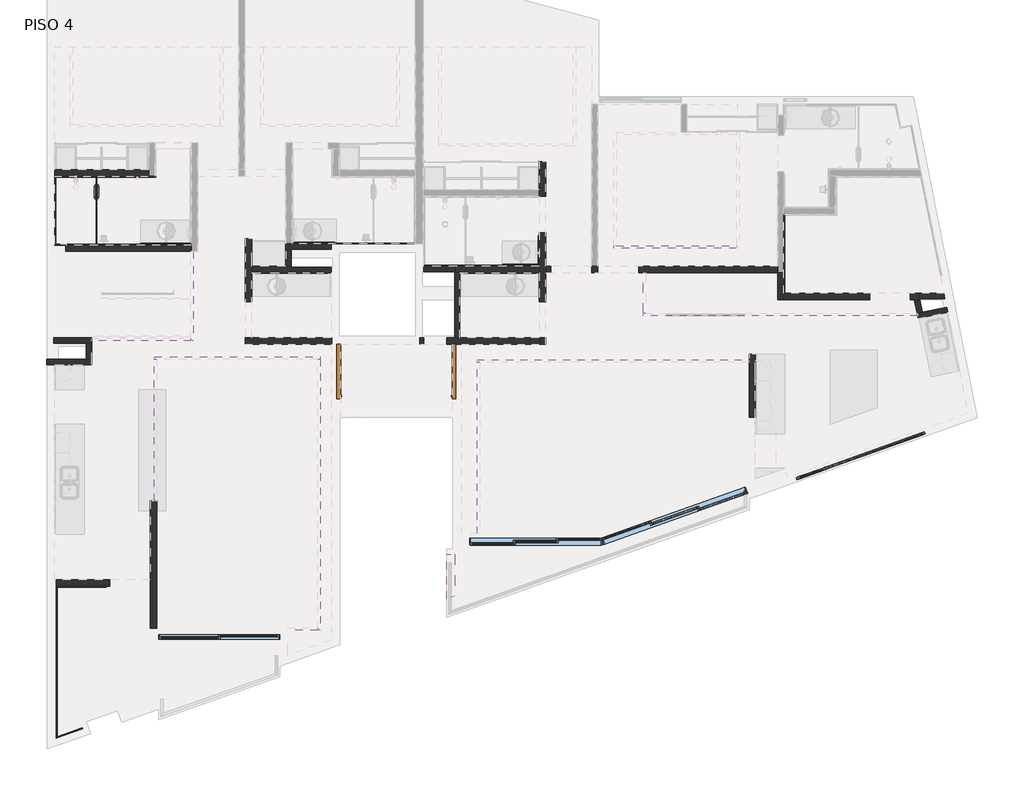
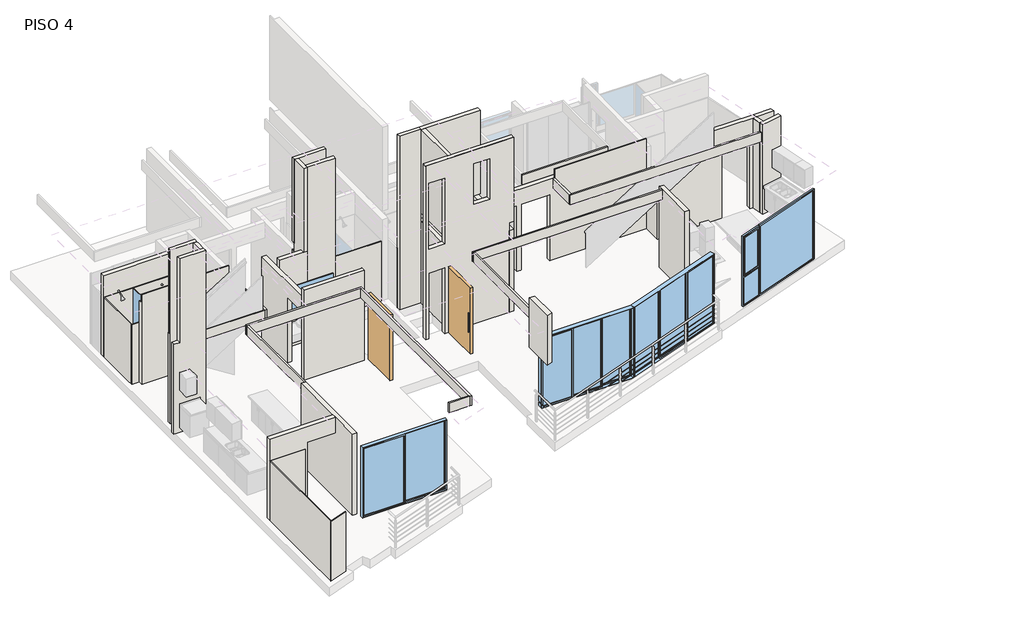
# One storey, part 1 of 3: 47 walls, 10 windows, 2 doors.
"""IFC4 building model written with IfcOpenShell, lengths in millimetres."""

from ifc_helpers import new_model, si_unit, frame, origin, place, context, project, spatial, polyline, outline, extrude, faceted_brep, transform, mapped, element, save
from components import door_120_x_220_cm_1a80d65d, door_120_x_220_cm_c73bc2d5, window_554a51fe, window_76b8c877, window_1067b7f7, window_0b8e7a57, window_f6d1640f, window_47e7c2ce, window_0ac24249, window_334a38c3, window_84fe70d5, window_9f760435

model = new_model("IFC4")

# Units and contexts
model_context = context("Model", 3, world=origin())
ifc_project = project(units=[si_unit("LENGTHUNIT", "METRE", prefix="MILLI")], contexts=[model_context])

# Site, building, storey
site = spatial("IfcSite", under=ifc_project)
building = spatial("IfcBuilding", under=site)
storey = spatial("IfcBuildingStorey", under=building, Name="PISO 4", Elevation=12000.0)

# Doors
placement = place(None, origin())
door_120_x_220_cm_shape = door_120_x_220_cm_1a80d65d(model_context)
element("IfcDoor", 1, ObjectType="PUERTA ACCESO_PIVOT : 120 x 220 cm", at=placement, inside=storey, context=model_context, shape_type="MappedRepresentation", body=[
    mapped(door_120_x_220_cm_shape, transform((40339.5059119, 28707.1436004, 12000.0), x_axis=(0.0, 1.0, 0.0), y_axis=(-1.0, 0.0, 0.0), z_axis=(0.0, 0.0, 1.0))),
])
door_120_x_220_cm_2_shape = door_120_x_220_cm_c73bc2d5(model_context)
element("IfcDoor", 2, ObjectType="PUERTA ACCESO_PIVOT : 120 x 220 cm", at=placement, inside=storey, context=model_context, shape_type="MappedRepresentation", body=[
    mapped(door_120_x_220_cm_2_shape, transform((43004.5059119, 28707.1436004, 12000.0), x_axis=(0.0, 1.0, 0.0), y_axis=(-1.0, 0.0, 0.0), z_axis=(0.0, 0.0, 1.0))),
])

# Walls
element("IfcWall", 3, ObjectType="Muro block 12cms_int_ductos", at=placement, inside=storey, context=model_context, shape_type="Brep", body=[
    faceted_brep([(34123.8589874, 29744.010184, 17800.0), (34123.8589874, 29744.010184, 12000.0), (34843.8589874, 29744.010184, 12000.0), (34963.8589874, 29744.010184, 12000.0), (34963.8589874, 29744.010184, 17800.0), (34843.8589874, 29744.010184, 17800.0), (34123.8589874, 29864.010184, 12000.0), (34123.8589874, 29864.010184, 15000.0), (34143.8589874, 29864.010184, 15000.0), (34143.8589874, 29864.010184, 17800.0), (34963.8589874, 29864.010184, 17800.0), (34963.8589874, 29864.010184, 15000.0), (34963.8589874, 29864.010184, 12000.0), (34143.8589874, 29864.010184, 12000.0), (34143.8589874, 29804.010184, 17800.0), (34123.8589874, 29804.010184, 17800.0), (34123.8589874, 29804.010184, 15000.0), (34143.8589874, 29804.010184, 15000.0)], [[[0, 1, 2, 3, 4, 5]], [[6, 7, 8, 9, 10, 11, 12, 13]], [[3, 2, 1, 6, 13, 12]], [[0, 5, 4, 10, 9, 14, 15]], [[3, 12, 11, 10, 4]], [[16, 17, 8, 7]], [[0, 15, 16, 7, 6, 1]], [[16, 15, 14, 17]], [[17, 14, 9, 8]]]),
])
element("IfcWall", 4, ObjectType="Muro block 12cms_int_ductos", at=placement, inside=storey, context=model_context, shape_type="Brep", body=[
    faceted_brep([(39234.5300226, 31813.9733508, 12000.0), (39354.5300226, 31813.9733508, 12000.0), (40234.5059119, 31813.9733508, 12000.0), (40234.5059119, 31813.9733508, 14720.0), (39234.5300226, 31813.9733508, 14720.0), (40234.5059119, 31933.9733508, 12000.0), (39374.5300226, 31933.9733508, 12000.0), (39234.5300226, 31933.9733508, 12000.0), (39234.5300226, 31933.9733508, 14720.0), (39374.5300226, 31933.9733508, 14720.0), (40234.5059119, 31933.9733508, 14720.0)], [[[0, 1, 2, 3, 4]], [[5, 6, 7, 8, 9, 10]], [[2, 1, 0, 7, 6, 5]], [[2, 5, 10, 3]], [[7, 0, 4, 8]], [[4, 3, 10, 9, 8]]]),
    faceted_brep([(40234.5059119, 31813.9733508, 17800.0), (39354.5300226, 31813.9733508, 17800.0), (39234.5300226, 31813.9733508, 17800.0), (39234.5300226, 31813.9733508, 15000.0), (40234.5059119, 31813.9733508, 15000.0), (39234.5300226, 31933.9733508, 17800.0), (40234.5059119, 31933.9733508, 17800.0), (40234.5059119, 31933.9733508, 15000.0), (39234.5300226, 31933.9733508, 15000.0)], [[[0, 1, 2, 3, 4]], [[5, 6, 7, 8]], [[2, 1, 0, 6, 5]], [[6, 0, 4, 7]], [[2, 5, 8, 3]], [[4, 3, 8, 7]]]),
])
element("IfcWall", 5, ObjectType="Muro block 12cms_int_ductos", at=placement, inside=storey, context=model_context, shape_type="Brep", body=[
    faceted_brep([(33963.8589874, 29274.010184, 12000.0), (34143.8589874, 29274.010184, 12000.0), (34963.8589874, 29274.010184, 12000.0), (34963.8589874, 29274.010184, 17800.0), (34143.8589874, 29274.010184, 17800.0), (34143.8589874, 29274.010184, 15000.0), (33963.8589874, 29274.010184, 15000.0), (33963.8589874, 29394.010184, 12000.0), (33963.8589874, 29394.010184, 15000.0), (34143.8589874, 29394.010184, 15000.0), (34143.8589874, 29394.010184, 17800.0), (34843.8589874, 29394.010184, 17800.0), (34963.8589874, 29394.010184, 17800.0), (34963.8589874, 29394.010184, 12000.0), (34843.8589874, 29394.010184, 12000.0), (34123.8589874, 29394.010184, 12000.0), (33963.8589874, 29334.010184, 12000.0), (34143.8589874, 29334.010184, 17800.0)], [[[0, 1, 2, 3, 4, 5, 6]], [[7, 8, 9, 10, 11, 12, 13, 14, 15]], [[2, 1, 0, 16, 7, 15, 14, 13]], [[4, 3, 12, 11, 10, 17]], [[5, 9, 8, 6]], [[0, 6, 8, 7, 16]], [[4, 17, 10, 9, 5]], [[3, 2, 13, 12]]]),
])
element("IfcWall", 6, ObjectType="Muro block 12cms_int_ductos", at=placement, inside=storey, context=model_context, shape_type="Brep", body=[
    faceted_brep([(34963.8589874, 29394.010184, 12000.0), (34963.8589874, 29744.010184, 12000.0), (34963.8589874, 29744.010184, 17800.0), (34963.8589874, 29684.010184, 17800.0), (34963.8589874, 29394.010184, 17800.0), (34843.8589874, 29394.010184, 12000.0), (34843.8589874, 29394.010184, 17800.0), (34843.8589874, 29744.010184, 17800.0), (34843.8589874, 29744.010184, 12000.0)], [[[0, 1, 2, 3, 4]], [[5, 6, 7, 8]], [[1, 0, 5, 8]], [[4, 3, 2, 7, 6]], [[0, 4, 6, 5]], [[1, 8, 7, 2]]]),
])
element("IfcWall", 7, ObjectType="Muro block 12cms_int_ductos", at=placement, inside=storey, context=model_context, shape_type="Brep", body=[
    faceted_brep([(39354.5300226, 31444.0104769, 12000.0), (39354.5300226, 31813.9733508, 12000.0), (39354.5300226, 31813.9733508, 17800.0), (39354.5300226, 31424.0104769, 17800.0), (39354.5300226, 31304.0104769, 17800.0), (39354.5300226, 31304.0104769, 15000.0), (39354.5300226, 31444.0104769, 15000.0), (39234.5300226, 31444.0104769, 12000.0), (39234.5300226, 31444.0104769, 15000.0), (39234.5300226, 31304.0104769, 15000.0), (39234.5300226, 31304.0104769, 17800.0), (39234.5300226, 31793.9733508, 17800.0), (39234.5300226, 31813.9733508, 17800.0), (39234.5300226, 31813.9733508, 12000.0)], [[[0, 1, 2, 3, 4, 5, 6]], [[7, 8, 9, 10, 11, 12, 13]], [[1, 0, 7, 13]], [[4, 3, 2, 12, 11, 10]], [[0, 6, 8, 7]], [[5, 4, 10, 9]], [[5, 9, 8, 6]], [[1, 13, 12, 2]]]),
])
element("IfcWall", 8, ObjectType="Muro block 12cms_int_ductos", at=placement, inside=storey, context=model_context, shape_type="Brep", body=[
    faceted_brep([(39354.5300226, 31304.0104769, 12000.0), (40234.5059119, 31304.0104769, 12000.0), (40234.5059119, 31304.0104769, 17800.0), (39354.5300226, 31304.0104769, 17800.0), (39354.5300226, 31304.0104769, 15000.0), (39354.5300226, 31424.0104769, 12000.0), (39354.5300226, 31424.0104769, 17800.0), (40234.5059119, 31424.0104769, 17800.0), (40234.5059119, 31424.0104769, 12000.0)], [[[0, 1, 2, 3, 4]], [[5, 6, 7, 8]], [[1, 0, 5, 8]], [[3, 2, 7, 6]], [[0, 4, 3, 6, 5]], [[2, 1, 8, 7]]]),
])
element("IfcWall", 9, ObjectType="Muro block 12cms_int_ductos", at=placement, inside=storey, context=model_context, shape_type="Brep", body=[
    faceted_brep([(42279.5059119, 31324.0104755, 12000.0), (42954.5059119, 31324.0104755, 12000.0), (42954.5059119, 31324.0104755, 17800.0), (42279.5059119, 31324.0104755, 17800.0), (42279.5059119, 31444.0104755, 12000.0), (42279.5059119, 31444.0104755, 17800.0), (42954.5059119, 31444.0104755, 17800.0), (42954.5059119, 31444.0104755, 15000.0), (42954.5059119, 31444.0104755, 14720.0), (42954.5059119, 31444.0104755, 12000.0)], [[[0, 1, 2, 3]], [[4, 5, 6, 7, 8, 9]], [[1, 0, 4, 9]], [[3, 2, 6, 5]], [[2, 1, 9, 8, 7, 6]], [[0, 3, 5, 4]]]),
])
element("IfcWall", 10, ObjectType="Muro block 12cms_int_ductos", at=placement, inside=storey, context=model_context, shape_type="Brep", body=[
    faceted_brep([(43074.5059119, 29864.010184, 12000.0), (43074.5059119, 31304.0104755, 12000.0), (43074.5059119, 31304.0104755, 14720.0), (43074.5059119, 29864.010184, 14720.0), (42954.5059119, 31304.0104755, 12000.0), (42954.5059119, 29864.010184, 12000.0), (42954.5059119, 29864.010184, 14720.0), (42954.5059119, 29913.9733508, 14720.0), (42954.5059119, 30699.0100923, 14720.0), (42954.5059119, 30999.0100923, 14720.0), (42954.5059119, 31304.0104755, 14720.0)], [[[0, 1, 2, 3]], [[4, 5, 6, 7, 8, 9, 10]], [[1, 0, 5, 4]], [[1, 4, 10, 2]], [[5, 0, 3, 6]], [[3, 2, 10, 9, 8, 7, 6]]]),
    faceted_brep([(43074.5059119, 31304.0104755, 17800.0), (43074.5059119, 29864.010184, 17800.0), (43074.5059119, 29864.010184, 15000.0), (43074.5059119, 31304.0104755, 15000.0), (42954.5059119, 29864.010184, 17800.0), (42954.5059119, 31304.0104755, 17800.0), (42954.5059119, 31304.0104755, 15000.0), (42954.5059119, 30999.0100923, 15000.0), (42954.5059119, 30699.0100923, 15000.0), (42954.5059119, 29913.9733508, 15000.0), (42954.5059119, 29864.010184, 15000.0)], [[[0, 1, 2, 3]], [[4, 5, 6, 7, 8, 9, 10]], [[1, 0, 5, 4]], [[5, 0, 3, 6]], [[1, 4, 10, 2]], [[3, 2, 10, 9, 8, 7, 6]]]),
])
element("IfcWall", 11, ObjectType="Muro block 12cms_int_ductos", at=placement, inside=storey, context=model_context, shape_type="Brep", body=[
    faceted_brep([(53171.4946911, 30294.866239, 15000.0), (53820.4344465, 30424.8416261, 15000.0), (53796.8678331, 30542.5047671, 15000.0), (53265.5912187, 30436.0959933, 15000.0), (53147.9280777, 30412.5293799, 15000.0), (53171.4946911, 30294.866239, 12000.0), (53820.4344465, 30424.8416261, 12000.0), (53147.9280777, 30412.5293799, 12000.0), (53796.8678331, 30542.5047671, 12000.0), (53265.5912187, 30436.0959933, 12000.0)], [[[0, 1, 2, 3, 4]], [[0, 5, 6, 1]], [[7, 4, 3, 2, 8, 9]], [[6, 5, 7, 9, 8]], [[0, 4, 7, 5]], [[1, 6, 8, 2]]]),
])
element("IfcWall", 12, ObjectType="Muro block 12cms_int_ductos", at=placement, inside=storey, context=model_context, shape_type="SweptSolid", body=[
    extrude(outline(polyline([(53760.5143431, 30724.0100923), (53207.9252394, 30724.0100923), (53183.8905793, 30844.0100923), (53736.479683, 30844.0100923), (53760.5143431, 30724.0100923)])), frame((0.0, 0.0, 12000.0), z_axis=(0.0, 0.0, 1.0), x_axis=(1.0, 0.0, 0.0)), (0.0, 0.0, 1.0), 3000.0),
])
element("IfcWall", 13, ObjectType="Muro block 12cms_int_ductos", at=placement, inside=storey, context=model_context, shape_type="SweptSolid", body=[
    extrude(outline(polyline([(53211.9310161, 30704.0100923), (53265.5912187, 30436.0959933), (53147.9280777, 30412.5293799), (53089.5477456, 30704.0100923), (53211.9310161, 30704.0100923)])), frame((0.0, 0.0, 12000.0), z_axis=(0.0, 0.0, 1.0), x_axis=(1.0, 0.0, 0.0)), (0.0, 0.0, 1.0), 3000.0),
])
element("IfcWall", 14, ObjectType="Plafond tablaroca", at=placement, inside=storey, context=model_context, shape_type="Brep", body=[
    faceted_brep([(36341.8300226, 29394.010184, 14402.7), (36394.5300226, 29394.010184, 14402.7), (39939.5059119, 29394.010184, 14402.7), (39992.2059119, 29394.010184, 14402.7), (39992.2059119, 29394.010184, 14720.0), (39939.5059119, 29394.010184, 14720.0), (36394.5300226, 29394.010184, 14720.0), (36341.8300226, 29394.010184, 14720.0), (36341.8300226, 29446.710184, 14402.7), (36341.8300226, 29446.710184, 14720.0), (39992.2059119, 29446.710184, 14720.0), (39992.2059119, 29446.710184, 14402.7)], [[[0, 1, 2, 3, 4, 5, 6, 7]], [[8, 9, 10, 11]], [[7, 6, 5, 4, 10, 9]], [[0, 7, 9, 8]], [[4, 3, 11, 10]], [[3, 2, 1, 0, 8, 11]]]),
])
element("IfcWall", 15, ObjectType="Plafond tablaroca", at=placement, inside=storey, context=model_context, shape_type="SweptSolid", body=[
    extrude(outline(polyline([(36394.5300226, 29394.010184), (36394.5300226, 26269.0176189), (36341.8300226, 26269.0176189), (36341.8300226, 29394.010184), (36394.5300226, 29394.010184)])), frame((0.0, 0.0, 14402.7), z_axis=(0.0, 0.0, 1.0), x_axis=(1.0, 0.0, 0.0)), (0.0, 0.0, 1.0), 317.3),
])
element("IfcWall", 16, ObjectType="Plafond tablaroca", at=placement, inside=storey, context=model_context, shape_type="Brep", body=[
    faceted_brep([(37143.8589874, 29798.2165883, 14720.0), (37143.8589874, 29850.9165883, 14720.0), (37143.8589874, 31768.9733508, 14720.0), (37143.8589874, 31768.9733508, 14402.7), (37143.8589874, 29850.9165883, 14402.7), (37143.8589874, 29798.2165883, 14402.7), (37196.5589874, 31768.9733508, 14720.0), (37196.5589874, 29798.2165883, 14720.0), (37196.5589874, 29798.2165883, 14402.7), (37196.5589874, 31768.9733508, 14402.7), (37154.5300226, 31768.9733508, 14720.0)], [[[0, 1, 2, 3, 4, 5]], [[6, 7, 8, 9]], [[2, 1, 0, 7, 6, 10]], [[2, 10, 6, 9, 3]], [[7, 0, 5, 8]], [[5, 4, 3, 9, 8]]]),
])
element("IfcWall", 17, ObjectType="Plafond tablaroca", at=placement, inside=storey, context=model_context, shape_type="SweptSolid", body=[
    extrude(outline(polyline([(34963.8589874, 29850.9165883), (37143.8589874, 29850.9165883), (37143.8589874, 29798.2165883), (34963.8589874, 29798.2165883), (34963.8589874, 29850.9165883)])), frame((0.0, 0.0, 14402.7), z_axis=(0.0, 0.0, 1.0), x_axis=(1.0, 0.0, 0.0)), (0.0, 0.0, 1.0), 317.3),
])
element("IfcWall", 18, ObjectType="Plafond tablaroca", at=placement, inside=storey, context=model_context, shape_type="Brep", body=[
    faceted_brep([(39939.5059119, 29394.010184, 14402.7), (39939.5059119, 23470.9402233, 14402.7), (39939.5059119, 23418.2402233, 14402.7), (39939.5059119, 23418.2402233, 14720.0), (39939.5059119, 23470.9402233, 14720.0), (39939.5059119, 29394.010184, 14720.0), (39992.2059119, 29394.010184, 14402.7), (39992.2059119, 29394.010184, 14720.0), (39992.2059119, 23418.2402233, 14720.0), (39992.2059119, 23418.2402233, 14402.7)], [[[0, 1, 2, 3, 4, 5]], [[6, 7, 8, 9]], [[5, 4, 3, 8, 7]], [[0, 5, 7, 6]], [[3, 2, 9, 8]], [[2, 1, 0, 6, 9]]]),
])
element("IfcWall", 19, ObjectType="Plafond tablaroca", at=placement, inside=storey, context=model_context, shape_type="SweptSolid", body=[
    extrude(outline(polyline([(39284.5057602, 23470.9402233), (39939.5059119, 23470.9402233), (39939.5059119, 23418.2402233), (39284.5057602, 23418.2402233), (39284.5057602, 23470.9402233)])), frame((0.0, 0.0, 14402.7), z_axis=(0.0, 0.0, 1.0), x_axis=(1.0, 0.0, 0.0)), (0.0, 0.0, 1.0), 317.3),
])
element("IfcWall", 20, ObjectType="Plafond tablaroca", at=placement, inside=storey, context=model_context, shape_type="Brep", body=[
    faceted_brep([(49174.4822189, 31896.7104696, 14402.7), (46514.5059119, 31896.7104696, 14402.7), (46461.8059119, 31896.7104696, 14402.7), (46461.8059119, 31896.7104696, 14720.0), (46514.5059119, 31896.7104696, 14720.0), (49174.4822189, 31896.7104696, 14720.0), (49174.4822189, 31844.0104696, 14402.7), (49174.4822189, 31844.0104696, 14720.0), (46461.8059119, 31844.0104696, 14720.0), (46461.8059119, 31844.0104696, 14402.7)], [[[0, 1, 2, 3, 4, 5]], [[6, 7, 8, 9]], [[5, 4, 3, 8, 7]], [[0, 5, 7, 6]], [[3, 2, 9, 8]], [[2, 1, 0, 6, 9]]]),
])
element("IfcWall", 21, ObjectType="Plafond tablaroca", at=placement, inside=storey, context=model_context, shape_type="Brep", body=[
    faceted_brep([(47118.1645778, 30404.0104696, 14720.0), (47170.8645778, 30404.0104696, 14720.0), (53149.6343204, 30404.0104696, 14720.0), (53149.6343204, 30404.0104696, 14402.7), (47170.8645778, 30404.0104696, 14402.7), (47118.1645778, 30404.0104696, 14402.7), (53160.1895419, 30351.3104696, 14720.0), (47118.1645778, 30351.3104696, 14720.0), (47118.1645778, 30351.3104696, 14402.7), (53160.1895419, 30351.3104696, 14402.7)], [[[0, 1, 2, 3, 4, 5]], [[6, 7, 8, 9]], [[2, 1, 0, 7, 6]], [[2, 6, 9, 3]], [[7, 0, 5, 8]], [[5, 4, 3, 9, 8]]]),
])
element("IfcWall", 22, ObjectType="Plafond tablaroca", at=placement, inside=storey, context=model_context, shape_type="SweptSolid", body=[
    extrude(outline(polyline([(47170.8645778, 31304.0104696), (47170.8645778, 30404.0104696), (47118.1645778, 30404.0104696), (47118.1645778, 31304.0104696), (47170.8645778, 31304.0104696)])), frame((0.0, 0.0, 14402.7), z_axis=(0.0, 0.0, 1.0), x_axis=(1.0, 0.0, 0.0)), (0.0, 0.0, 1.0), 317.3),
])
element("IfcWall", 23, ObjectType="Cerámica baño", at=placement, inside=storey, context=model_context, shape_type="Brep", body=[
    faceted_brep([(37154.5300226, 31928.9733508, 12000.0), (37134.5300226, 31928.9733508, 12000.0), (34164.5300226, 31928.9733508, 12000.0), (34144.5300226, 31928.9733508, 12000.0), (34144.5300226, 31928.9733508, 14000.0), (34164.5300226, 31928.9733508, 14000.0), (37134.5300226, 31928.9733508, 14000.0), (37154.5300226, 31928.9733508, 14000.0), (37154.5300226, 31908.9733508, 12000.0), (37154.5300226, 31908.9733508, 14000.0), (34144.5300226, 31908.9733508, 14000.0), (34144.5300226, 31908.9733508, 12000.0)], [[[0, 1, 2, 3, 4, 5, 6, 7]], [[8, 9, 10, 11]], [[3, 2, 1, 0, 8, 11]], [[7, 6, 5, 4, 10, 9]], [[0, 7, 9, 8]], [[4, 3, 11, 10]]]),
])
element("IfcWall", 24, ObjectType="Cerámica baño", at=placement, inside=storey, context=model_context, shape_type="Brep", body=[
    faceted_brep([(34164.5300226, 31928.9733508, 12000.0), (34164.5300226, 33408.9784839, 12000.0), (34164.5300226, 33428.9784839, 12000.0), (34164.5300226, 33428.9784839, 14000.0), (34164.5300226, 33408.9784839, 14000.0), (34164.5300226, 31928.9733508, 14000.0), (34144.5300226, 31928.9733508, 12000.0), (34144.5300226, 31928.9733508, 14000.0), (34144.5300226, 33428.9784839, 14000.0), (34144.5300226, 33428.9784839, 12000.0)], [[[0, 1, 2, 3, 4, 5]], [[6, 7, 8, 9]], [[2, 1, 0, 6, 9]], [[5, 4, 3, 8, 7]], [[0, 5, 7, 6]], [[3, 2, 9, 8]]]),
])
element("IfcWall", 25, ObjectType="Cerámica baño", at=placement, inside=storey, context=model_context, shape_type="Brep", body=[
    faceted_brep([(34164.5300226, 33408.9784839, 12000.0), (36374.5300226, 33408.9784839, 12000.0), (36374.5300226, 33408.9784839, 14000.0), (34164.5300226, 33408.9784839, 14000.0), (34164.5300226, 33428.9784839, 12000.0), (34164.5300226, 33428.9784839, 14000.0), (36354.5300226, 33428.9784839, 14000.0), (36374.5300226, 33428.9784839, 14000.0), (36374.5300226, 33428.9784839, 12000.0), (36354.5300226, 33428.9784839, 12000.0)], [[[0, 1, 2, 3]], [[4, 5, 6, 7, 8, 9]], [[1, 0, 4, 9, 8]], [[3, 2, 7, 6, 5]], [[0, 3, 5, 4]], [[2, 1, 8, 7]]]),
])
element("IfcWall", 26, ObjectType="Cerámica baño", at=placement, inside=storey, context=model_context, shape_type="Brep", body=[
    faceted_brep([(42064.5059119, 31953.9733508, 12000.0), (39394.5300226, 31953.9733508, 12000.0), (39374.5300226, 31953.9733508, 12000.0), (39374.5300226, 31953.9733508, 14000.0), (39394.5300226, 31953.9733508, 14000.0), (42064.5059119, 31953.9733508, 14000.0), (42064.5059119, 31933.9733508, 12000.0), (42064.5059119, 31933.9733508, 14000.0), (39374.5300226, 31933.9733508, 14000.0), (39374.5300226, 31933.9733508, 12000.0)], [[[0, 1, 2, 3, 4, 5]], [[6, 7, 8, 9]], [[2, 1, 0, 6, 9]], [[5, 4, 3, 8, 7]], [[0, 5, 7, 6]], [[3, 2, 9, 8]]]),
])
element("IfcWall", 27, ObjectType="Cerámica baño", at=placement, inside=storey, context=model_context, shape_type="Brep", body=[
    faceted_brep([(44804.5251366, 31464.0104755, 12000.0), (43219.5059119, 31464.0104755, 12000.0), (43179.5059119, 31464.0104755, 12000.0), (42299.5059119, 31464.0104755, 12000.0), (42279.5059119, 31464.0104755, 12000.0), (42279.5059119, 31464.0104755, 14000.0), (42299.5059119, 31464.0104755, 14000.0), (44804.5251366, 31464.0104755, 14000.0), (44804.5251366, 31444.0104755, 12000.0), (44804.5251366, 31444.0104755, 14000.0), (42279.5059119, 31444.0104755, 14000.0), (42279.5059119, 31444.0104755, 12000.0)], [[[0, 1, 2, 3, 4, 5, 6, 7]], [[8, 9, 10, 11]], [[4, 3, 2, 1, 0, 8, 11]], [[7, 6, 5, 10, 9]], [[5, 4, 11, 10]], [[0, 7, 9, 8]]]),
])
element("IfcWall", 28, ObjectType="Cerámica baño", at=placement, inside=storey, context=model_context, shape_type="Brep", body=[
    faceted_brep([(44824.5251366, 31444.0104755, 12000.0), (44824.5251366, 32114.0113856, 12000.0), (44824.5251366, 32114.0113856, 14000.0), (44824.5251366, 31444.0104755, 14000.0), (44804.5251366, 31444.0104755, 12000.0), (44804.5251366, 31444.0104755, 14000.0), (44804.5251366, 31464.0104755, 14000.0), (44804.5251366, 32114.0113856, 14000.0), (44804.5251366, 32114.0113856, 12000.0), (44804.5251366, 31464.0104755, 12000.0)], [[[0, 1, 2, 3]], [[4, 5, 6, 7, 8, 9]], [[1, 0, 4, 9, 8]], [[2, 1, 8, 7]], [[3, 2, 7, 6, 5]], [[0, 3, 5, 4]]]),
])
element("IfcWall", 29, ObjectType="Cerámica baño", at=placement, inside=storey, context=model_context, shape_type="Brep", body=[
    faceted_brep([(50234.4822189, 30844.0100923, 12000.0), (50234.4822189, 32564.0113781, 12000.0), (50234.4822189, 32584.0113781, 12000.0), (50234.4822189, 32584.0113781, 14000.0), (50234.4822189, 32564.0113781, 14000.0), (50234.4822189, 30844.0100923, 14000.0), (50214.4822189, 30844.0100923, 12000.0), (50214.4822189, 30844.0100923, 13821.1764706), (50214.4822189, 30844.0100923, 14000.0), (50214.4822189, 32584.0113781, 14000.0), (50214.4822189, 32584.0113781, 12000.0)], [[[0, 1, 2, 3, 4, 5]], [[6, 7, 8, 9, 10]], [[2, 1, 0, 6, 10]], [[5, 4, 3, 9, 8]], [[0, 5, 8, 7, 6]], [[3, 2, 10, 9]]]),
])
element("IfcWall", 30, ObjectType="Cerámica baño", at=placement, inside=storey, context=model_context, shape_type="SweptSolid", body=[
    extrude(outline(polyline([(34762.5272081, 21253.1294489), (34194.5300226, 21050.7216296), (34194.5300226, 21071.9535665), (34755.8136696, 21271.9689925), (34762.5272081, 21253.1294489)])), frame((0.0, 0.0, 12000.0), z_axis=(0.0, 0.0, 1.0), x_axis=(1.0, 0.0, 0.0)), (0.0, 0.0, 1.0), 2000.0),
])
element("IfcWall", 31, ObjectType="Cerámica baño", at=placement, inside=storey, context=model_context, shape_type="Brep", body=[
    faceted_brep([(34174.5300226, 24392.4819685, 12000.0), (34174.5300226, 21043.5945584, 12000.0), (34174.5300226, 21043.5945584, 14000.0), (34174.5300226, 24392.4819685, 14000.0), (34194.5300226, 24392.4819685, 12000.0), (34194.5300226, 24392.4819685, 14000.0), (34194.5300226, 24372.4819685, 14000.0), (34194.5300226, 21071.9535665, 14000.0), (34194.5300226, 21050.7216296, 14000.0), (34194.5300226, 21050.7216296, 12000.0), (34194.5300226, 21071.9535665, 12000.0), (34194.5300226, 24372.4819685, 12000.0)], [[[0, 1, 2, 3]], [[4, 5, 6, 7, 8, 9, 10, 11]], [[1, 0, 4, 11, 10, 9]], [[3, 2, 8, 7, 6, 5]], [[0, 3, 5, 4]], [[2, 1, 9, 8]]]),
])
element("IfcWall", 32, ObjectType="Cerámica baño", at=placement, inside=storey, context=model_context, shape_type="SweptSolid", body=[
    extrude(outline(polyline([(34194.5300226, 24392.4819685), (35284.5300226, 24392.4819685), (35284.5300226, 24372.4819685), (34194.5300226, 24372.4819685), (34194.5300226, 24392.4819685)])), frame((0.0, 0.0, 12000.0), z_axis=(0.0, 0.0, 1.0), x_axis=(1.0, 0.0, 0.0)), (0.0, 0.0, 1.0), 2000.0),
])
element("IfcWall", 33, ObjectType="Plafond tablaroca", at=placement, inside=storey, context=model_context, shape_type="Brep", body=[
    faceted_brep([(49444.5059119, 29376.710184, 14402.7), (43456.8059119, 29376.710184, 14402.7), (43456.8059119, 29376.710184, 14720.0), (49444.5059119, 29376.710184, 14720.0), (49444.5059119, 29324.010184, 14402.7), (49444.5059119, 29324.010184, 14720.0), (43509.5059119, 29324.010184, 14720.0), (43456.8059119, 29324.010184, 14720.0), (43456.8059119, 29324.010184, 14402.7), (43509.5059119, 29324.010184, 14402.7)], [[[0, 1, 2, 3]], [[4, 5, 6, 7, 8, 9]], [[0, 3, 5, 4]], [[2, 1, 8, 7]], [[1, 0, 4, 9, 8]], [[3, 2, 7, 6, 5]]]),
])
element("IfcWall", 34, ObjectType="Plafond tablaroca", at=placement, inside=storey, context=model_context, shape_type="SweptSolid", body=[
    extrude(outline(polyline([(43456.8059119, 25545.2541962), (43456.8059119, 29324.010184), (43509.5059119, 29324.010184), (43509.5059119, 25545.2541962), (43456.8059119, 25545.2541962)])), frame((0.0, 0.0, 14402.7), z_axis=(0.0, 0.0, 1.0), x_axis=(1.0, 0.0, 0.0)), (0.0, 0.0, 1.0), 317.3),
])
element("IfcWall", 35, ObjectType="Muro block 14cms_int", at=placement, inside=storey, context=model_context, shape_type="SweptSolid", body=[
    extrude(outline(polyline([(34143.8589874, 33568.9784839), (36214.5300226, 33568.9784839), (36214.5300226, 33428.9784839), (34143.8589874, 33428.9784839), (34143.8589874, 33568.9784839)])), frame((0.0, 0.0, 12000.0), z_axis=(0.0, 0.0, 1.0), x_axis=(1.0, 0.0, 0.0)), (0.0, 0.0, 1.0), 2720.0),
])
element("IfcWall", 36, ObjectType="Muro block 14cms_int", at=placement, inside=storey, context=model_context, shape_type="Brep", body=[
    faceted_brep([(50074.4822189, 31304.0104696, 12000.0), (50074.4822189, 31304.0104696, 14720.0), (50074.4822189, 31304.0104696, 15000.0), (47170.8645778, 31304.0104696, 15000.0), (47170.8645778, 31304.0104696, 14720.0), (47118.1645778, 31304.0104696, 14720.0), (44964.5251366, 31304.0104696, 14720.0), (44964.5251366, 31304.0104696, 12000.0), (45074.5059119, 31304.0104696, 12000.0), (45074.5059119, 31304.0104696, 14200.0), (45974.5059119, 31304.0104696, 14200.0), (45974.5059119, 31304.0104696, 12000.0), (46114.5059119, 31304.0104696, 12000.0), (46114.5059119, 31304.0104696, 14200.0), (47014.5059119, 31304.0104696, 14200.0), (47014.5059119, 31304.0104696, 12000.0), (45974.5059119, 31444.0104696, 12000.0), (45974.5059119, 31444.0104696, 14200.0), (45074.5059119, 31444.0104696, 14200.0), (45074.5059119, 31444.0104696, 12000.0), (44964.5251366, 31444.0104696, 12000.0), (44964.5251366, 31444.0104696, 14720.0), (45974.5059119, 31444.0104696, 14720.0), (46114.5059119, 31444.0104696, 14720.0), (50074.4822189, 31444.0104696, 14720.0), (50074.4822189, 31444.0104696, 12000.0), (47014.5059119, 31444.0104696, 12000.0), (47014.5059119, 31444.0104696, 14200.0), (46114.5059119, 31444.0104696, 14200.0), (46114.5059119, 31444.0104696, 12000.0), (50074.4822189, 31330.9168739, 15000.0), (47170.8645778, 31330.9168739, 15000.0), (50074.4822189, 31330.9168739, 14720.0), (47170.8645778, 31330.9168739, 14720.0)], [[[0, 1, 2, 3, 4, 5, 6, 7, 8, 9, 10, 11, 12, 13, 14, 15]], [[16, 17, 18, 19, 20, 21, 22, 23, 24, 25, 26, 27, 28, 29]], [[25, 0, 15, 26]], [[11, 16, 29, 12]], [[19, 8, 7, 20]], [[3, 2, 30, 31]], [[2, 1, 0, 25, 24, 32, 30]], [[10, 17, 16, 11]], [[9, 18, 17, 10]], [[18, 9, 8, 19]], [[28, 13, 12, 29]], [[13, 28, 27, 14]], [[14, 27, 26, 15]], [[20, 7, 6, 21]], [[4, 33, 32, 24, 23, 22, 21, 6, 5]], [[33, 31, 30, 32]], [[31, 33, 4, 3]]]),
])
element("IfcWall", 37, ObjectType="Muro block 14cms_int", at=placement, inside=storey, context=model_context, shape_type="Brep", body=[
    faceted_brep([(50074.4822189, 31304.0104696, 12000.0), (50074.4822189, 30704.0100923, 12000.0), (50074.4822189, 30704.0100923, 13941.1764706), (50074.4822189, 31304.0104696, 13941.1764706), (50214.4822189, 31304.0104696, 12000.0), (50214.4822189, 31304.0104696, 13941.1764706), (50214.4822189, 30704.0100923, 13941.1764706), (50214.4822189, 30704.0100923, 13821.1764706), (50214.4822189, 30704.0100923, 12000.0), (50214.4822189, 30844.0100923, 12000.0)], [[[0, 1, 2, 3]], [[4, 5, 6, 7, 8, 9]], [[1, 0, 4, 9, 8]], [[3, 2, 6, 5]], [[0, 3, 5, 4]], [[2, 1, 8, 7, 6]]]),
])
element("IfcWall", 38, ObjectType="Muro block 14cms_int", at=placement, inside=storey, context=model_context, shape_type="Brep", body=[
    faceted_brep([(53211.9310161, 30704.0100923, 15000.0), (53089.5477456, 30704.0100923, 15000.0), (51770.8645778, 30704.0100923, 15000.0), (51770.8645778, 30704.0100923, 14703.5294118), (51490.8645778, 30704.0100923, 14703.5294118), (51490.8645778, 30704.0100923, 14527.0588235), (51210.8645778, 30704.0100923, 14527.0588235), (51210.8645778, 30704.0100923, 14350.5882353), (50930.8645778, 30704.0100923, 14350.5882353), (50930.8645778, 30704.0100923, 14174.1176471), (50650.8645778, 30704.0100923, 14174.1176471), (50650.8645778, 30704.0100923, 13997.6470588), (50370.8645778, 30704.0100923, 13997.6470588), (50370.8645778, 30704.0100923, 13821.1764706), (50214.4822189, 30704.0100923, 13821.1764706), (50214.4822189, 30704.0100923, 12000.0), (52100.8645778, 30704.0100923, 12000.0), (52100.8645778, 30704.0100923, 14200.0), (53000.8645778, 30704.0100923, 14200.0), (53000.8645778, 30704.0100923, 12000.0), (53089.5477456, 30704.0100923, 12000.0), (53211.9310161, 30704.0100923, 12000.0), (51770.8645778, 30844.0100923, 15000.0), (53183.8905793, 30844.0100923, 15000.0), (53183.8905793, 30844.0100923, 12000.0), (53000.8645778, 30844.0100923, 12000.0), (53000.8645778, 30844.0100923, 14200.0), (52100.8645778, 30844.0100923, 14200.0), (52100.8645778, 30844.0100923, 12000.0), (50234.4822189, 30844.0100923, 12000.0), (50214.4822189, 30844.0100923, 12000.0), (50214.4822189, 30844.0100923, 13821.1764706), (50370.8645778, 30844.0100923, 13821.1764706), (50370.8645778, 30844.0100923, 13997.6470588), (50650.8645778, 30844.0100923, 13997.6470588), (50650.8645778, 30844.0100923, 14174.1176471), (50930.8645778, 30844.0100923, 14174.1176471), (50930.8645778, 30844.0100923, 14350.5882353), (51210.8645778, 30844.0100923, 14350.5882353), (51210.8645778, 30844.0100923, 14527.0588235), (51490.8645778, 30844.0100923, 14527.0588235), (51490.8645778, 30844.0100923, 14703.5294118), (51770.8645778, 30844.0100923, 14703.5294118), (53207.9252394, 30724.0100923, 12000.0), (53207.9252394, 30724.0100923, 15000.0)], [[[0, 1, 2, 3, 4, 5, 6, 7, 8, 9, 10, 11, 12, 13, 14, 15, 16, 17, 18, 19, 20, 21]], [[22, 23, 24, 25, 26, 27, 28, 29, 30, 31, 32, 33, 34, 35, 36, 37, 38, 39, 40, 41, 42]], [[15, 14, 31, 30]], [[18, 26, 25, 19]], [[26, 18, 17, 27]], [[27, 17, 16, 28]], [[15, 30, 29, 28, 16]], [[24, 43, 21, 20, 19, 25]], [[2, 1, 0, 44, 23, 22]], [[3, 2, 22, 42]], [[4, 3, 42, 41]], [[5, 4, 41, 40]], [[6, 5, 40, 39]], [[7, 6, 39, 38]], [[8, 7, 38, 37]], [[9, 8, 37, 36]], [[10, 9, 36, 35]], [[11, 10, 35, 34]], [[12, 11, 34, 33]], [[13, 12, 33, 32]], [[14, 13, 32, 31]], [[0, 21, 43, 24, 23, 44]]]),
])
element("IfcWall", 39, ObjectType="Muro block 14cms_int", at=placement, inside=storey, context=model_context, shape_type="Brep", body=[
    faceted_brep([(49584.5059119, 28111.0432167, 12000.0), (49584.5059119, 29504.0104696, 12000.0), (49584.5059119, 29504.0104696, 14720.0), (49584.5059119, 28111.0432167, 14720.0), (49444.5059119, 28111.0432167, 12000.0), (49444.5059119, 28111.0432167, 14720.0), (49444.5059119, 29324.010184, 14720.0), (49444.5059119, 29376.710184, 14720.0), (49444.5059119, 29504.0104696, 14720.0), (49444.5059119, 29504.0104696, 12000.0)], [[[0, 1, 2, 3]], [[4, 5, 6, 7, 8, 9]], [[1, 0, 4, 9]], [[2, 1, 9, 8]], [[0, 3, 5, 4]], [[3, 2, 8, 7, 6, 5]]]),
])
element("IfcWall", 40, ObjectType="Muro block 14cms_int", at=placement, inside=storey, context=model_context, shape_type="Brep", body=[
    faceted_brep([(40244.5059119, 29864.010184, 15000.0), (40234.5059119, 29864.010184, 15000.0), (38344.5059119, 29864.010184, 15000.0), (38344.5059119, 29724.010184, 15000.0), (40244.5059119, 29724.010184, 15000.0), (40244.5059119, 29744.010184, 15000.0), (40244.5059119, 29864.010184, 12000.0), (38344.5059119, 29864.010184, 12000.0), (38344.5059119, 29864.010184, 14200.0), (38344.5059119, 29864.010184, 14720.0), (40244.5059119, 29724.010184, 12000.0), (38344.5059119, 29724.010184, 12000.0), (40234.5059119, 29724.010184, 12000.0), (40244.5059119, 29744.010184, 12000.0)], [[[0, 1, 2, 3, 4, 5]], [[6, 7, 8, 9, 2, 1, 0]], [[10, 4, 3, 11, 12]], [[7, 6, 13, 10, 12, 11]], [[6, 0, 5, 4, 10, 13]], [[2, 9, 8, 7, 11, 3]]]),
])
element("IfcWall", 41, ObjectType="Muro block 14cms_int", at=placement, inside=storey, context=model_context, shape_type="Brep", body=[
    faceted_brep([(38484.5059119, 32044.0104769, 12000.0), (38484.5059119, 32044.0104769, 14720.0), (38484.5059119, 29864.010184, 14720.0), (38484.5059119, 29864.010184, 14200.0), (38484.5059119, 30664.010184, 14200.0), (38484.5059119, 30664.010184, 12000.0), (38484.5059119, 31304.0104769, 12000.0), (38484.5059119, 31444.0104769, 12000.0), (38344.5059119, 32044.0104769, 14720.0), (38344.5059119, 32044.0104769, 12000.0), (38344.5059119, 30664.010184, 12000.0), (38344.5059119, 30664.010184, 14200.0), (38344.5059119, 29864.010184, 14200.0), (38344.5059119, 29864.010184, 14720.0)], [[[0, 1, 2, 3, 4, 5, 6, 7]], [[8, 9, 10, 11, 12, 13]], [[9, 0, 7, 6, 5, 10]], [[1, 0, 9, 8]], [[2, 13, 12, 3]], [[11, 4, 3, 12]], [[4, 11, 10, 5]], [[2, 1, 8, 13]]]),
])
element("IfcWall", 42, ObjectType="Muro block 14cms_int", at=placement, inside=storey, context=model_context, shape_type="Brep", body=[
    faceted_brep([(38484.5059119, 31304.0104769, 15000.0), (39234.5300226, 31304.0104769, 15000.0), (39354.5300226, 31304.0104769, 15000.0), (39354.5300226, 31444.0104769, 15000.0), (39234.5300226, 31444.0104769, 15000.0), (38484.5059119, 31444.0104769, 15000.0), (38484.5059119, 31304.0104769, 12000.0), (39354.5300226, 31304.0104769, 12000.0), (38484.5059119, 31444.0104769, 12000.0), (39354.5300226, 31444.0104769, 12000.0), (39234.5300226, 31444.0104769, 12000.0), (39354.5300226, 31424.0104769, 12000.0)], [[[0, 1, 2, 3, 4, 5]], [[6, 7, 2, 1, 0]], [[8, 5, 4, 3, 9, 10]], [[7, 6, 8, 10, 9, 11]], [[6, 0, 5, 8]], [[2, 7, 11, 9, 3]]]),
])
element("IfcWall", 43, ObjectType="Muro block 14cms_int", at=placement, inside=storey, context=model_context, shape_type="Brep", body=[
    faceted_brep([(34383.8589874, 31795.8797551, 15000.0), (34383.8589874, 31768.9733508, 15000.0), (37143.8589874, 31768.9733508, 15000.0), (37143.8589874, 31795.8797551, 15000.0), (34383.8589874, 31768.9733508, 12000.0), (37154.5300226, 31768.9733508, 12000.0), (37154.5300226, 31768.9733508, 14720.0), (37143.8589874, 31768.9733508, 14720.0), (37154.5300226, 31908.9733508, 12000.0), (34383.8589874, 31908.9733508, 12000.0), (34383.8589874, 31908.9733508, 14720.0), (37154.5300226, 31908.9733508, 14720.0), (34383.8589874, 31795.8797551, 14720.0), (37143.8589874, 31795.8797551, 14720.0)], [[[0, 1, 2, 3]], [[4, 5, 6, 7, 2, 1]], [[8, 9, 10, 11]], [[5, 4, 9, 8]], [[4, 1, 0, 12, 10, 9]], [[5, 8, 11, 6]], [[12, 13, 7, 6, 11, 10]], [[3, 13, 12, 0]], [[13, 3, 2, 7]]]),
])
element("IfcWall", 44, ObjectType="Muro block 14cms_int", at=placement, inside=storey, context=model_context, shape_type="SweptSolid", body=[
    extrude(outline(polyline([(14720.0, 34173.8589874), (12000.0, 34173.8589874), (12000.0, 35354.5300226), (14200.0, 35354.5300226), (14200.0, 36254.5300226), (14720.0, 36254.5300226), (14720.0, 34173.8589874)])), frame((0.0, 24392.4819685, 0.0), z_axis=(0.0, 1.0, 0.0), x_axis=(0.0, 0.0, 1.0)), (0.0, 0.0, 1.0), 140.0),
])
element("IfcWall", 45, ObjectType="Muro block 14cms_int", at=placement, inside=storey, context=model_context, shape_type="Brep", body=[
    faceted_brep([(36394.5300226, 23470.9402233, 12000.0), (36394.5300226, 26269.0176189, 12000.0), (36394.5300226, 26269.0176189, 14720.0), (36394.5300226, 23470.9402233, 14720.0), (36254.5300226, 23470.9402233, 12000.0), (36254.5300226, 23470.9402233, 14720.0), (36254.5300226, 24392.4819685, 14720.0), (36254.5300226, 24532.4819685, 14720.0), (36254.5300226, 26269.0176189, 14720.0), (36254.5300226, 26269.0176189, 12000.0), (36341.8300226, 26269.0176189, 14720.0)], [[[0, 1, 2, 3]], [[4, 5, 6, 7, 8, 9]], [[1, 0, 4, 9]], [[2, 1, 9, 8, 10]], [[0, 3, 5, 4]], [[3, 2, 10, 8, 7, 6, 5]]]),
])
element("IfcWall", 46, ObjectType="Muro block 14cms_int", at=placement, inside=storey, context=model_context, shape_type="Brep", body=[
    faceted_brep([(44964.5251366, 32984.0113856, 12000.0), (44964.5251366, 33744.0113905, 12000.0), (44964.5251366, 33744.0113905, 14720.0), (44964.5251366, 31444.0104696, 14720.0), (44964.5251366, 31304.0104696, 14720.0), (44964.5251366, 29724.010184, 14720.0), (44964.5251366, 29724.010184, 12000.0), (44964.5251366, 29864.010184, 12000.0), (44964.5251366, 29864.010184, 14200.0), (44964.5251366, 30664.010184, 14200.0), (44964.5251366, 30664.010184, 12000.0), (44964.5251366, 31304.0104696, 12000.0), (44964.5251366, 31444.0104696, 12000.0), (44964.5251366, 32184.0113856, 12000.0), (44964.5251366, 32184.0113856, 14200.0), (44964.5251366, 32984.0113856, 14200.0), (44824.5251366, 33744.0113905, 12000.0), (44824.5251366, 33124.0113856, 12000.0), (44824.5251366, 32984.0113856, 12000.0), (44824.5251366, 32984.0113856, 14200.0), (44824.5251366, 32184.0113856, 14200.0), (44824.5251366, 32184.0113856, 12000.0), (44824.5251366, 31444.0104755, 12000.0), (44824.5251366, 31304.0104755, 12000.0), (44824.5251366, 30664.010184, 12000.0), (44824.5251366, 30664.010184, 14200.0), (44824.5251366, 29864.010184, 14200.0), (44824.5251366, 29864.010184, 12000.0), (44824.5251366, 29724.010184, 12000.0), (44824.5251366, 29724.010184, 14720.0), (44824.5251366, 31304.0104755, 14720.0), (44824.5251366, 31444.0104755, 14720.0), (44824.5251366, 32984.0113856, 14720.0), (44824.5251366, 33124.0113856, 14720.0), (44824.5251366, 33744.0113905, 14720.0)], [[[0, 1, 2, 3, 4, 5, 6, 7, 8, 9, 10, 11, 12, 13, 14, 15]], [[16, 17, 18, 19, 20, 21, 22, 23, 24, 25, 26, 27, 28, 29, 30, 31, 32, 33, 34]], [[16, 1, 0, 18, 17]], [[21, 13, 12, 11, 10, 24, 23, 22]], [[7, 6, 28, 27]], [[1, 16, 34, 2]], [[15, 19, 18, 0]], [[19, 15, 14, 20]], [[20, 14, 13, 21]], [[26, 8, 7, 27]], [[8, 26, 25, 9]], [[9, 25, 24, 10]], [[28, 6, 5, 29]], [[2, 34, 33, 32, 31, 30, 29, 5, 4, 3]]]),
])
element("IfcWall", 47, ObjectType="Muro block 14cms_int", at=placement, inside=storey, context=model_context, shape_type="Brep", body=[
    faceted_brep([(44824.5251366, 31444.0104755, 17800.0), (42954.5059119, 31444.0104755, 17800.0), (42954.5059119, 31324.0104755, 17800.0), (42954.5059119, 31304.0104755, 17800.0), (43074.5059119, 31304.0104755, 17800.0), (44824.5251366, 31304.0104755, 17800.0), (42954.5059119, 31304.0104755, 15000.0), (43074.5059119, 31304.0104755, 15000.0), (44824.5251366, 31304.0104755, 15000.0), (44824.5251366, 31444.0104755, 15000.0), (42954.5059119, 31444.0104755, 15000.0), (42954.5059119, 31324.0104755, 15000.0)], [[[0, 1, 2, 3, 4, 5]], [[5, 4, 3, 6, 7, 8]], [[1, 0, 9, 10]], [[0, 5, 8, 9]], [[3, 2, 1, 10, 11, 6]], [[8, 7, 6, 11, 10, 9]]]),
    faceted_brep([(42954.5059119, 31304.0104755, 12000.0), (43074.5059119, 31304.0104755, 12000.0), (44824.5251366, 31304.0104755, 12000.0), (44824.5251366, 31304.0104755, 14720.0), (43074.5059119, 31304.0104755, 14720.0), (42954.5059119, 31304.0104755, 14720.0), (44824.5251366, 31444.0104755, 12000.0), (42954.5059119, 31444.0104755, 12000.0), (42954.5059119, 31444.0104755, 14720.0), (44824.5251366, 31444.0104755, 14720.0), (42954.5059119, 31324.0104755, 12000.0), (42954.5059119, 31324.0104755, 14720.0)], [[[0, 1, 2, 3, 4, 5]], [[6, 7, 8, 9]], [[2, 1, 0, 10, 7, 6]], [[2, 6, 9, 3]], [[7, 10, 0, 5, 11, 8]], [[5, 4, 3, 9, 8, 11]]]),
])
element("IfcWall", 48, ObjectType="Muro block 14cms_int", at=placement, inside=storey, context=model_context, shape_type="Brep", body=[
    faceted_brep([(43702.6275078, 29724.010184, 16000.0), (44202.6275078, 29724.010184, 16000.0), (44202.6275078, 29864.010184, 16000.0), (43702.6275078, 29864.010184, 16000.0), (44202.6275078, 29724.010184, 17350.0), (44202.6275078, 29864.010184, 17350.0), (43702.6275078, 29724.010184, 17350.0), (43702.6275078, 29864.010184, 17350.0), (42184.5059119, 29724.010184, 17800.0), (42184.5059119, 29724.010184, 12000.0), (42279.5059119, 29724.010184, 12000.0), (42279.5059119, 29724.010184, 14200.0), (42779.5059119, 29724.010184, 14200.0), (42779.5059119, 29724.010184, 12000.0), (42899.5059119, 29724.010184, 12000.0), (43109.5059119, 29724.010184, 12000.0), (44824.5251366, 29724.010184, 12000.0), (44824.5251366, 29724.010184, 14720.0), (44824.5251366, 29724.010184, 15000.0), (44964.5251366, 29724.010184, 15000.0), (44964.5251366, 29724.010184, 17800.0), (43109.5059119, 29724.010184, 17800.0), (42899.5059119, 29724.010184, 17800.0), (42779.5059119, 29724.010184, 17200.0), (42779.5059119, 29724.010184, 15000.0), (42279.5059119, 29724.010184, 15000.0), (42279.5059119, 29724.010184, 17200.0), (42184.5059119, 29864.010184, 12000.0), (42184.5059119, 29864.010184, 17800.0), (42899.5059119, 29864.010184, 17800.0), (42954.5059119, 29864.010184, 17800.0), (43074.5059119, 29864.010184, 17800.0), (43109.5059119, 29864.010184, 17800.0), (44824.5251366, 29864.010184, 17800.0), (44964.5251366, 29864.010184, 17800.0), (44964.5251366, 29864.010184, 17200.0), (44964.5251366, 29864.010184, 15000.0), (44824.5251366, 29864.010184, 15000.0), (44824.5251366, 29864.010184, 14200.0), (44824.5251366, 29864.010184, 12000.0), (43074.5059119, 29864.010184, 12000.0), (42954.5059119, 29864.010184, 12000.0), (42779.5059119, 29864.010184, 12000.0), (42779.5059119, 29864.010184, 14200.0), (42279.5059119, 29864.010184, 14200.0), (42279.5059119, 29864.010184, 12000.0), (42779.5059119, 29864.010184, 15000.0), (42779.5059119, 29864.010184, 17200.0), (42279.5059119, 29864.010184, 17200.0), (42279.5059119, 29864.010184, 15000.0), (42184.5059119, 29739.010184, 17800.0), (44964.5251366, 29739.010184, 17800.0), (43109.5059119, 29739.010184, 17800.0), (43089.5059119, 29739.010184, 17800.0), (42899.5059119, 29739.010184, 17800.0)], [[[0, 1, 2, 3]], [[1, 4, 5, 2]], [[4, 6, 7, 5]], [[6, 0, 3, 7]], [[8, 9, 10, 11, 12, 13, 14, 15, 16, 17, 18, 19, 20, 21, 22], [1, 0, 6, 4], [23, 24, 25, 26]], [[27, 28, 29, 30, 31, 32, 33, 34, 35, 36, 37, 38, 39, 40, 41, 42, 43, 44, 45], [3, 2, 5, 7], [46, 47, 48, 49]], [[9, 27, 45, 10]], [[39, 16, 15, 14, 13, 42, 41, 40]], [[9, 8, 50, 28, 27]], [[50, 8, 22, 21, 20, 51, 52, 53, 54]], [[19, 18, 37, 36]], [[18, 17, 16, 39, 38, 37]], [[20, 19, 36, 35, 34, 51]], [[28, 50, 54, 53, 52, 51, 34, 33, 32, 31, 30, 29]], [[12, 43, 42, 13]], [[43, 12, 11, 44]], [[44, 11, 10, 45]], [[47, 46, 24, 23]], [[48, 47, 23, 26]], [[49, 48, 26, 25]], [[46, 49, 25, 24]]]),
])
element("IfcWall", 49, ObjectType="Muro block 18cms_ext", at=placement, inside=storey, context=model_context, shape_type="SweptSolid", body=[
    extrude(outline(polyline([(42782.6275078, 24111.1207447), (42782.6275078, 25099.0112971), (42962.6275078, 25099.0112971), (42962.6275078, 24175.2643855), (42782.6275078, 24111.1207447)])), frame((0.0, 0.0, 14350.0), z_axis=(0.0, 0.0, 1.0), x_axis=(1.0, 0.0, 0.0)), (0.0, 0.0, 1.0), 1650.0),
])

# Windows
window_shape = window_554a51fe(model_context)
element("IfcWindow", 50, ObjectType="VENT_ALUM_PROY_ARRIBA_LATERAL FIJO COMPLETO : V12-VENT_ALUM_PROY_ARRIBA_LATERAL FIJO COMPLETO", at=placement, inside=storey, context=model_context, shape_type="MappedRepresentation", body=[
    mapped(window_shape, transform((51904.8913227, 27266.3282171, 11500.0), x_axis=(-0.9419771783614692, -0.33567692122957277, 0.0), y_axis=(0.33567692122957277, -0.9419771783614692, 0.0), z_axis=(0.0, 0.0, 1.0))),
])
window_2_shape = window_76b8c877(model_context)
element("IfcWindow", 51, ObjectType="VENT_ALUM_CORR_2HOJAS_CORRE 1 : V7-VENT_ALUM_CORR_2HOJAS_CORRE 1", at=placement, inside=storey, context=model_context, shape_type="MappedRepresentation", body=[
    mapped(window_2_shape, transform((37769.5057602, 23275.9402233, 12000.0), x_axis=(1.0, 0.0, 0.0), y_axis=(0.0, 1.0, 0.0), z_axis=(0.0, 0.0, 1.0))),
])
window_3_shape = window_1067b7f7(model_context)
element("IfcWindow", 52, ObjectType="VENT_ALUM_CORR_3HOJAS_CORRE 1 : V9-VENT_ALUM_CORR_3HOJAS_CORRE 1 - SALA PT DER", at=placement, inside=storey, context=model_context, shape_type="MappedRepresentation", body=[
    mapped(window_3_shape, transform((47805.5176665, 25943.5094095, 11200.0), x_axis=(0.9419771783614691, 0.3356769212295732, 0.0), y_axis=(-0.3356769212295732, 0.9419771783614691, 0.0), z_axis=(0.0, 0.0, 1.0))),
])
window_4_shape = window_0b8e7a57(model_context)
element("IfcWindow", 53, ObjectType="VENT_ALUM_CORR_3HOJAS_CORRE 1 : V8-VENT_ALUM_CORR_3HOJAS_CORRE 1 - SALA PT IZQ", at=placement, inside=storey, context=model_context, shape_type="MappedRepresentation", body=[
    mapped(window_4_shape, transform((44747.0059119, 25375.2541962, 11200.0), x_axis=(-1.0, 0.0, 0.0), y_axis=(0.0, -1.0, 0.0), z_axis=(0.0, 0.0, 1.0))),
])
window_5_shape = window_f6d1640f(model_context)
element("IfcWindow", 54, ObjectType="espejo biselado sin marco : ESP2-espejo biselado 90 x 100", at=placement, inside=storey, context=model_context, shape_type="MappedRepresentation", body=[
    mapped(window_5_shape, transform((39869.5300226, 31943.9733508, 13000.0), x_axis=(1.0, 0.0, 0.0), y_axis=(0.0, 1.0, 0.0), z_axis=(0.0, 0.0, 1.0))),
])
window_6_shape = window_47e7c2ce(model_context)
element("IfcWindow", 55, ObjectType="espejo biselado sin marco : ESP1-espejo biselado 77 x 100", at=placement, inside=storey, context=model_context, shape_type="MappedRepresentation", body=[
    mapped(window_6_shape, transform((44404.5251366, 31454.0104755, 13000.0), x_axis=(1.0, 0.0, 0.0), y_axis=(0.0, 1.0, 0.0), z_axis=(0.0, 0.0, 1.0))),
])
window_7_shape = window_0ac24249(model_context)
element("IfcWindow", 56, ObjectType="espejo biselado sin marco : ESP8-espejo biselado 160 x 100", at=placement, inside=storey, context=model_context, shape_type="MappedRepresentation", body=[
    mapped(window_7_shape, transform((43949.5251366, 31374.0104755, 13000.0), x_axis=(-1.0, 0.0, 0.0), y_axis=(0.0, -1.0, 0.0), z_axis=(0.0, 0.0, 1.0))),
])
window_8_shape = window_334a38c3(model_context)
element("IfcWindow", 57, ObjectType="espejo biselado sin marco : ESP5-espejo biselado 110 x 101", at=placement, inside=storey, context=model_context, shape_type="MappedRepresentation", body=[
    mapped(window_8_shape, transform((36584.5300226, 31918.9733508, 13000.0), x_axis=(1.0, 0.0, 0.0), y_axis=(0.0, 1.0, 0.0), z_axis=(0.0, 0.0, 1.0))),
])
window_9_shape = window_84fe70d5(model_context)
element("IfcWindow", 58, ObjectType="espejo biselado sin marco : ESP8-espejo biselado 160 x 100", at=placement, inside=storey, context=model_context, shape_type="MappedRepresentation", body=[
    mapped(window_9_shape, transform((39359.5059119, 31364.0104769, 13000.0), x_axis=(-1.0, 0.0, 0.0), y_axis=(0.0, -1.0, 0.0), z_axis=(0.0, 0.0, 1.0))),
])
window_10_shape = window_9f760435(model_context)
element("IfcWindow", 59, ObjectType="Baño 1 Puerta lateral - toallero simple : CA03-cancel baño-1.48", at=placement, inside=storey, context=model_context, shape_type="MappedRepresentation", body=[
    mapped(window_10_shape, transform((35064.5300226, 32668.9733508, 12000.0), x_axis=(0.0, 1.0, 0.0), y_axis=(-1.0, 0.0, 0.0), z_axis=(0.0, 0.0, 1.0))),
])

save(model, "model.ifc")
